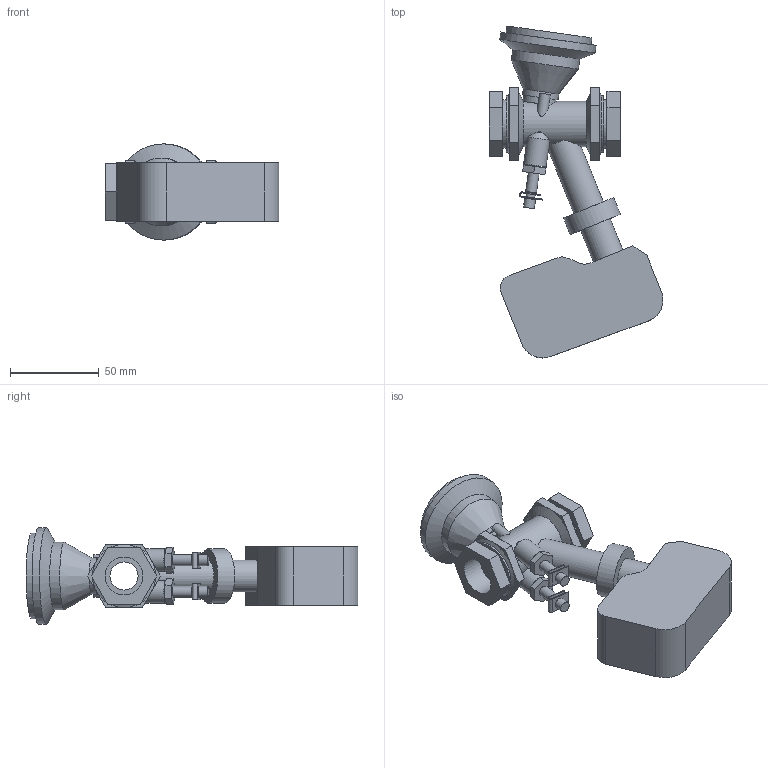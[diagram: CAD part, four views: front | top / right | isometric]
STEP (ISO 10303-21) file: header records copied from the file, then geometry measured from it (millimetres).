
FILE_DESCRIPTION(/* description */ ('VIC BALANCING AND CONTROL VALVE SERIES 7CP (FPT)-TA SLIDER 160 PLUS','CAx-IF Rec.Pracs.---Representation and Presentation of Product Manufacturing Information (PMI)---4.0---2014-10-13'),/* implementation_level */ '2;1');
FILE_NAME(/* name */ 'C:\Users\Vjadhav\AppData\Roaming\Autodesk\ApplicationPlugins\Victaulic.Temp\A633\Victaulic_IPS_Valve Balancing Pressure Independent_TA Series 7CP (FPT)_Slider 160 Plus_LF_0.5 (15).stp',/* time_stamp */ '2021-09-14T20:02:42+06:00',/* author */ ('Vjadhav'),/* organization */ ('Victaulic'),/* preprocessor_version */ 'ST-DEVELOPER v17.2',/* originating_system */ 'Autodesk Inventor 2019',/* authorisation */ '');
FILE_SCHEMA (('AP242_MANAGED_MODEL_BASED_3D_ENGINEERING_MIM_LF { 1 0 10303 442 1 1 4 }'));
Length unit declared in the file: inch
Products named in the file (2): 7CP_Slider 160 Plus_LF-0.5; 7CP_LF-0.5
Assembly tree (1 placements, depth 2):
  7CP_Slider 160 Plus_LF-0.5
    7CP_LF-0.5
Bounding box: 97.8 x 186.69 x 54.1 mm (x, y, z)
Volume: 223084.5 mm3; surface area: 47517 mm2
Topology: 1 solids, 1 shells, 174 faces, 432 edges, 288 vertices
Faces by surface type: plane 120, cylinder 46, cone 8
Full cylindrical faces by diameter (mm): 5.08 x6, 6.096 x6, 12.7 x2, 15.799 x2, 17.78 x2, 20.32 x1, 21.336 x3, 25.4 x1, 27.432 x2, 30.471 x1, 31.75 x2, 38.1 x1, 48.26 x1, 54.102 x1
Entity records: 5722 total; most frequent: CARTESIAN_POINT 1120, DIRECTION 944, ORIENTED_EDGE 864, EDGE_CURVE 432, AXIS2_PLACEMENT_3D 350, VERTEX_POINT 288, LINE 244, VECTOR 244
